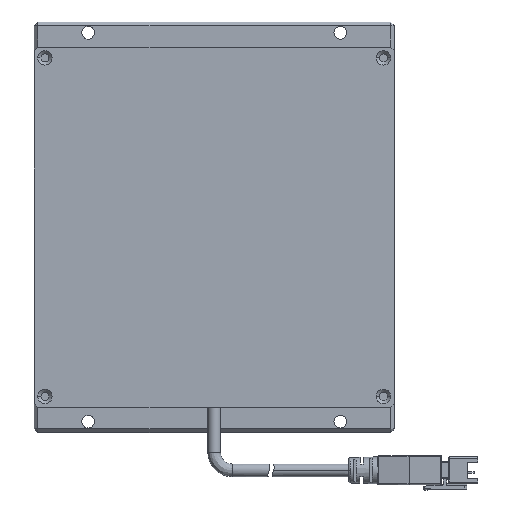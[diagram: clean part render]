
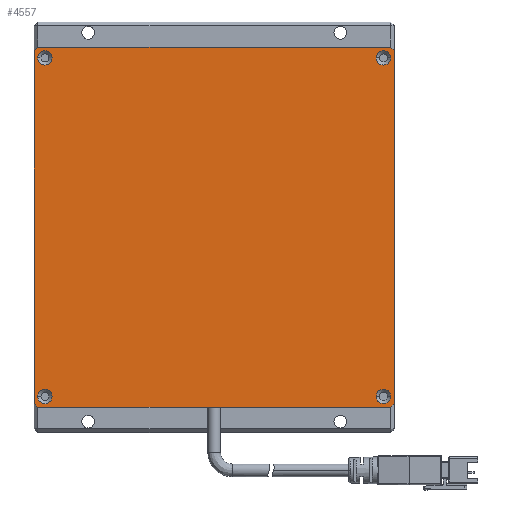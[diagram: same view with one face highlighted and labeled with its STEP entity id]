
A CAD part, top view. The second image highlights one B-rep face of the part: STEP entity #4557.
In plain terms, the highlighted planar face has unit normal (0, 0, 1).
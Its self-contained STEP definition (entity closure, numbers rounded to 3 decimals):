
#7 = VERTEX_POINT ( 'NONE', #1688 ) ;
#89 = ORIENTED_EDGE ( 'NONE', *, *, #1157, .F. ) ;
#157 = DIRECTION ( 'NONE',  ( 0., 0., 1. ) ) ;
#279 = DIRECTION ( 'NONE',  ( 0.707, 0.707, 0. ) ) ;
#290 = LINE ( 'NONE', #5348, #400 ) ;
#294 = AXIS2_PLACEMENT_3D ( 'NONE', #7443, #5401, #3368 ) ;
#320 = AXIS2_PLACEMENT_3D ( 'NONE', #2182, #6918, #8260 ) ;
#362 = VERTEX_POINT ( 'NONE', #1652 ) ;
#400 = VECTOR ( 'NONE', #2066, 1000. ) ;
#415 = CARTESIAN_POINT ( 'NONE',  ( 47., -47., 22.5 ) ) ;
#537 = CIRCLE ( 'NONE', #3066, 2. ) ;
#653 = VERTEX_POINT ( 'NONE', #8098 ) ;
#666 = CIRCLE ( 'NONE', #294, 2. ) ;
#708 = VERTEX_POINT ( 'NONE', #6154 ) ;
#815 = VECTOR ( 'NONE', #6889, 1000. ) ;
#827 = EDGE_CURVE ( 'NONE', #7625, #708, #1583, .T. ) ;
#834 = DIRECTION ( 'NONE',  ( 0., 0., 1. ) ) ;
#1044 = EDGE_CURVE ( 'NONE', #5943, #8183, #537, .T. ) ;
#1100 = EDGE_CURVE ( 'NONE', #8253, #5902, #6247, .T. ) ;
#1157 = EDGE_CURVE ( 'NONE', #4905, #7, #6875, .T. ) ;
#1180 = CARTESIAN_POINT ( 'NONE',  ( -50., -49., 22.5 ) ) ;
#1315 = DIRECTION ( 'NONE',  ( 1., 0., 0. ) ) ;
#1330 = DIRECTION ( 'NONE',  ( -1., 0., 0. ) ) ;
#1356 = VERTEX_POINT ( 'NONE', #7287 ) ;
#1416 = EDGE_LOOP ( 'NONE', ( #8548, #89 ) ) ;
#1444 = EDGE_CURVE ( 'NONE', #5902, #7468, #3935, .T. ) ;
#1506 = DIRECTION ( 'NONE',  ( 0.707, -0.707, 0. ) ) ;
#1564 = EDGE_LOOP ( 'NONE', ( #8241, #4200 ) ) ;
#1583 = CIRCLE ( 'NONE', #320, 2. ) ;
#1622 = DIRECTION ( 'NONE',  ( 0., 0., 1. ) ) ;
#1635 = CARTESIAN_POINT ( 'NONE',  ( 50., -49., 22.5 ) ) ;
#1652 = CARTESIAN_POINT ( 'NONE',  ( -50., 49., 22.5 ) ) ;
#1685 = LINE ( 'NONE', #7508, #5080 ) ;
#1687 = VECTOR ( 'NONE', #1506, 1000. ) ;
#1688 = CARTESIAN_POINT ( 'NONE',  ( 49., -47., 22.5 ) ) ;
#1738 = DIRECTION ( 'NONE',  ( 0., 0., 1. ) ) ;
#1741 = FACE_BOUND ( 'NONE', #1746, .T. ) ;
#1746 = EDGE_LOOP ( 'NONE', ( #3722, #6389 ) ) ;
#1860 = DIRECTION ( 'NONE',  ( 0., 0., 1. ) ) ;
#1963 = PLANE ( 'NONE',  #3941 ) ;
#1990 = VECTOR ( 'NONE', #279, 1000. ) ;
#2066 = DIRECTION ( 'NONE',  ( -0.707, 0.707, 0. ) ) ;
#2182 = CARTESIAN_POINT ( 'NONE',  ( 47., 47., 22.5 ) ) ;
#2218 = CARTESIAN_POINT ( 'NONE',  ( -49., -50., 22.5 ) ) ;
#2222 = EDGE_CURVE ( 'NONE', #708, #7625, #2315, .T. ) ;
#2264 = VECTOR ( 'NONE', #6840, 1000. ) ;
#2283 = CARTESIAN_POINT ( 'NONE',  ( 45., -47., 22.5 ) ) ;
#2285 = DIRECTION ( 'NONE',  ( 1., 0., 0. ) ) ;
#2315 = CIRCLE ( 'NONE', #2672, 2. ) ;
#2462 = VERTEX_POINT ( 'NONE', #6093 ) ;
#2467 = EDGE_CURVE ( 'NONE', #653, #7532, #290, .T. ) ;
#2672 = AXIS2_PLACEMENT_3D ( 'NONE', #5366, #7440, #4797 ) ;
#2697 = EDGE_CURVE ( 'NONE', #7468, #6795, #5595, .T. ) ;
#2724 = CIRCLE ( 'NONE', #5779, 2. ) ;
#3002 = ORIENTED_EDGE ( 'NONE', *, *, #1044, .F. ) ;
#3044 = FACE_OUTER_BOUND ( 'NONE', #6678, .T. ) ;
#3066 = AXIS2_PLACEMENT_3D ( 'NONE', #7582, #1622, #7668 ) ;
#3368 = DIRECTION ( 'NONE',  ( 1., 0., 0. ) ) ;
#3387 = CARTESIAN_POINT ( 'NONE',  ( -49., -50., 22.5 ) ) ;
#3627 = CARTESIAN_POINT ( 'NONE',  ( -47., 47., 22.5 ) ) ;
#3685 = LINE ( 'NONE', #5473, #815 ) ;
#3722 = ORIENTED_EDGE ( 'NONE', *, *, #4052, .F. ) ;
#3934 = CARTESIAN_POINT ( 'NONE',  ( -45., 47., 22.5 ) ) ;
#3935 = LINE ( 'NONE', #5374, #6138 ) ;
#3941 = AXIS2_PLACEMENT_3D ( 'NONE', #7432, #5393, #1330 ) ;
#3956 = CARTESIAN_POINT ( 'NONE',  ( 49., 50., 22.5 ) ) ;
#3966 = CARTESIAN_POINT ( 'NONE',  ( -49., 47., 22.5 ) ) ;
#4048 = ORIENTED_EDGE ( 'NONE', *, *, #4296, .T. ) ;
#4052 = EDGE_CURVE ( 'NONE', #1356, #2462, #4953, .T. ) ;
#4056 = ORIENTED_EDGE ( 'NONE', *, *, #5760, .T. ) ;
#4064 = ORIENTED_EDGE ( 'NONE', *, *, #4413, .F. ) ;
#4199 = LINE ( 'NONE', #5545, #2264 ) ;
#4200 = ORIENTED_EDGE ( 'NONE', *, *, #2222, .F. ) ;
#4296 = EDGE_CURVE ( 'NONE', #7011, #362, #3685, .T. ) ;
#4413 = EDGE_CURVE ( 'NONE', #8183, #5943, #2724, .T. ) ;
#4428 = FACE_BOUND ( 'NONE', #1416, .T. ) ;
#4557 = ADVANCED_FACE ( 'NONE', ( #1741, #4428, #7146, #8418, #3044 ), #1963, .F. ) ;
#4566 = DIRECTION ( 'NONE',  ( 0., 1., 0. ) ) ;
#4577 = CARTESIAN_POINT ( 'NONE',  ( 49., 47., 22.5 ) ) ;
#4762 = ORIENTED_EDGE ( 'NONE', *, *, #5030, .T. ) ;
#4797 = DIRECTION ( 'NONE',  ( 1., 0., 0. ) ) ;
#4824 = EDGE_CURVE ( 'NONE', #2462, #1356, #6509, .T. ) ;
#4905 = VERTEX_POINT ( 'NONE', #2283 ) ;
#4953 = CIRCLE ( 'NONE', #6852, 2. ) ;
#4973 = CARTESIAN_POINT ( 'NONE',  ( -47., -47., 22.5 ) ) ;
#5030 = EDGE_CURVE ( 'NONE', #6795, #653, #5242, .T. ) ;
#5080 = VECTOR ( 'NONE', #8186, 1000. ) ;
#5242 = LINE ( 'NONE', #8550, #5556 ) ;
#5348 = CARTESIAN_POINT ( 'NONE',  ( 49., 50., 22.5 ) ) ;
#5366 = CARTESIAN_POINT ( 'NONE',  ( 47., 47., 22.5 ) ) ;
#5374 = CARTESIAN_POINT ( 'NONE',  ( -50., -50., 22.5 ) ) ;
#5393 = DIRECTION ( 'NONE',  ( 0., 0., -1. ) ) ;
#5401 = DIRECTION ( 'NONE',  ( 0., 0., 1. ) ) ;
#5473 = CARTESIAN_POINT ( 'NONE',  ( -50., 49., 22.5 ) ) ;
#5545 = CARTESIAN_POINT ( 'NONE',  ( -50., -50., 22.5 ) ) ;
#5556 = VECTOR ( 'NONE', #4566, 1000. ) ;
#5595 = LINE ( 'NONE', #8258, #1990 ) ;
#5653 = DIRECTION ( 'NONE',  ( 1., 0., 0. ) ) ;
#5730 = AXIS2_PLACEMENT_3D ( 'NONE', #4973, #834, #5653 ) ;
#5760 = EDGE_CURVE ( 'NONE', #362, #8253, #4199, .T. ) ;
#5779 = AXIS2_PLACEMENT_3D ( 'NONE', #3627, #157, #2285 ) ;
#5902 = VERTEX_POINT ( 'NONE', #3387 ) ;
#5923 = CARTESIAN_POINT ( 'NONE',  ( -47., -47., 22.5 ) ) ;
#5943 = VERTEX_POINT ( 'NONE', #3966 ) ;
#6093 = CARTESIAN_POINT ( 'NONE',  ( -49., -47., 22.5 ) ) ;
#6138 = VECTOR ( 'NONE', #1315, 1000. ) ;
#6154 = CARTESIAN_POINT ( 'NONE',  ( 45., 47., 22.5 ) ) ;
#6228 = ORIENTED_EDGE ( 'NONE', *, *, #2697, .T. ) ;
#6247 = LINE ( 'NONE', #2218, #1687 ) ;
#6290 = ORIENTED_EDGE ( 'NONE', *, *, #7720, .T. ) ;
#6389 = ORIENTED_EDGE ( 'NONE', *, *, #4824, .F. ) ;
#6497 = EDGE_CURVE ( 'NONE', #7, #4905, #666, .T. ) ;
#6509 = CIRCLE ( 'NONE', #5730, 2. ) ;
#6586 = DIRECTION ( 'NONE',  ( 1., 0., 0. ) ) ;
#6678 = EDGE_LOOP ( 'NONE', ( #4056, #6932, #7749, #6228, #4762, #8583, #6290, #4048 ) ) ;
#6795 = VERTEX_POINT ( 'NONE', #1635 ) ;
#6840 = DIRECTION ( 'NONE',  ( 0., -1., 0. ) ) ;
#6852 = AXIS2_PLACEMENT_3D ( 'NONE', #5923, #1860, #6586 ) ;
#6875 = CIRCLE ( 'NONE', #7587, 2. ) ;
#6889 = DIRECTION ( 'NONE',  ( -0.707, -0.707, 0. ) ) ;
#6918 = DIRECTION ( 'NONE',  ( 0., 0., 1. ) ) ;
#6932 = ORIENTED_EDGE ( 'NONE', *, *, #1100, .T. ) ;
#7011 = VERTEX_POINT ( 'NONE', #7335 ) ;
#7089 = CARTESIAN_POINT ( 'NONE',  ( 49., -50., 22.5 ) ) ;
#7146 = FACE_BOUND ( 'NONE', #1564, .T. ) ;
#7153 = DIRECTION ( 'NONE',  ( 1., 0., 0. ) ) ;
#7287 = CARTESIAN_POINT ( 'NONE',  ( -45., -47., 22.5 ) ) ;
#7335 = CARTESIAN_POINT ( 'NONE',  ( -49., 50., 22.5 ) ) ;
#7432 = CARTESIAN_POINT ( 'NONE',  ( 0., 0., 22.5 ) ) ;
#7440 = DIRECTION ( 'NONE',  ( 0., 0., 1. ) ) ;
#7443 = CARTESIAN_POINT ( 'NONE',  ( 47., -47., 22.5 ) ) ;
#7468 = VERTEX_POINT ( 'NONE', #7089 ) ;
#7508 = CARTESIAN_POINT ( 'NONE',  ( -50., 50., 22.5 ) ) ;
#7532 = VERTEX_POINT ( 'NONE', #3956 ) ;
#7582 = CARTESIAN_POINT ( 'NONE',  ( -47., 47., 22.5 ) ) ;
#7587 = AXIS2_PLACEMENT_3D ( 'NONE', #415, #1738, #7153 ) ;
#7625 = VERTEX_POINT ( 'NONE', #4577 ) ;
#7668 = DIRECTION ( 'NONE',  ( 1., 0., 0. ) ) ;
#7720 = EDGE_CURVE ( 'NONE', #7532, #7011, #1685, .T. ) ;
#7749 = ORIENTED_EDGE ( 'NONE', *, *, #1444, .T. ) ;
#7838 = EDGE_LOOP ( 'NONE', ( #4064, #3002 ) ) ;
#8098 = CARTESIAN_POINT ( 'NONE',  ( 50., 49., 22.5 ) ) ;
#8183 = VERTEX_POINT ( 'NONE', #3934 ) ;
#8186 = DIRECTION ( 'NONE',  ( -1., 0., 0. ) ) ;
#8241 = ORIENTED_EDGE ( 'NONE', *, *, #827, .F. ) ;
#8253 = VERTEX_POINT ( 'NONE', #1180 ) ;
#8258 = CARTESIAN_POINT ( 'NONE',  ( 50., -49., 22.5 ) ) ;
#8260 = DIRECTION ( 'NONE',  ( 1., 0., 0. ) ) ;
#8418 = FACE_BOUND ( 'NONE', #7838, .T. ) ;
#8548 = ORIENTED_EDGE ( 'NONE', *, *, #6497, .F. ) ;
#8550 = CARTESIAN_POINT ( 'NONE',  ( 50., -50., 22.5 ) ) ;
#8583 = ORIENTED_EDGE ( 'NONE', *, *, #2467, .T. ) ;
